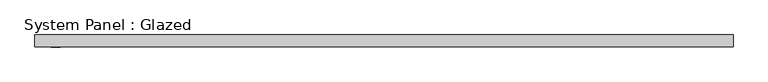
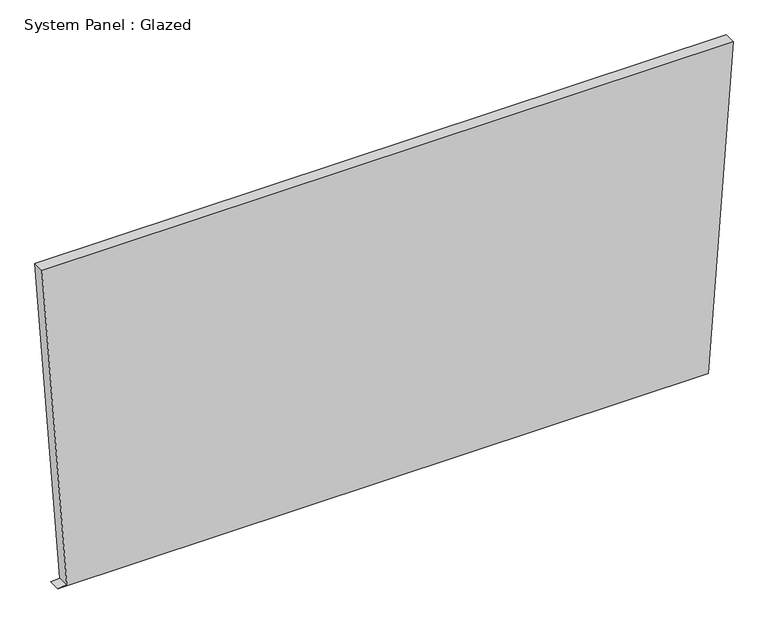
"""IFC4 building model written with IfcOpenShell, lengths in millimetres: plate geometry, System Panel : Glazed."""

import ifcopenshell
import ifcopenshell.guid

model = None  # the IFC model being written
_history = None  # IfcOwnerHistory: only IFC2X3 demands one
_inside = {}  # id of a spatial element -> (the spatial element, [elements in it])
_under = {}  # id of a project, library or spatial element -> (it, [spatial elements below it])
_declared = {}  # id of a project -> (the project, [libraries it declares])
_typed = {}  # id of a type object -> (the type object, [elements of that type])
_made_of = {}  # id of a material, layer set ... -> (it, [elements and type objects made of it])


def new_model(schema):
    """Start an empty IFC model of exactly this schema.

    Asked for "IFC4X3", IfcOpenShell would pick the latest addendum, in which some entities
    have other attributes; the version numbers below select the first issue.
    IFC2X3 requires an IfcOwnerHistory on every rooted entity: one is made here for all.
    """
    global model, _history
    if schema == "IFC4X3":
        model = ifcopenshell.file(schema_version=(4, 3, 0, 0))
    else:
        model = ifcopenshell.file(schema=schema)
    _inside.clear()
    _under.clear()
    _declared.clear()
    _typed.clear()
    _made_of.clear()
    _history = None
    if model.schema == "IFC2X3":
        org = make("IfcOrganization", Name="unknown")
        user = make(
            "IfcPersonAndOrganization",
            ThePerson=make("IfcPerson", FamilyName="unknown"),
            TheOrganization=org,
        )
        app = make(
            "IfcApplication",
            ApplicationDeveloper=org,
            Version="unknown",
            ApplicationFullName="unknown",
            ApplicationIdentifier="unknown",
        )
        _history = make(
            "IfcOwnerHistory",
            OwningUser=user,
            OwningApplication=app,
            ChangeAction="ADDED",
            CreationDate=0,
        )
    return model


def make(cls, **values):
    """One entity of the class cls with the attributes given. An attribute that is None is left unset."""
    return model.create_entity(
        cls, **{name: value for name, value in values.items() if value is not None}
    )


def rooted(cls, **values):
    """An entity with a GlobalId (a new one), such as an element, a storey or a relation."""
    return make(cls, GlobalId=ifcopenshell.guid.new(), OwnerHistory=_history, **values)


def si_unit(unit_type, name, prefix=None):
    """IfcSIUnit, for example si_unit("LENGTHUNIT", "METRE", prefix="MILLI")."""
    return make("IfcSIUnit", UnitType=unit_type, Prefix=prefix, Name=name)


def assignment(units):
    """IfcUnitAssignment: the units of a project."""
    return None if units is None else make("IfcUnitAssignment", Units=units)


def point(xyz):
    """IfcCartesianPoint."""
    return None if xyz is None else make("IfcCartesianPoint", Coordinates=xyz)


def direction(xyz):
    """IfcDirection."""
    return None if xyz is None else make("IfcDirection", DirectionRatios=xyz)


def frame(location, z_axis=None, x_axis=None):
    """IfcAxis2Placement3D, a coordinate frame: its origin and axes. An axis left out is left unset."""
    return make(
        "IfcAxis2Placement3D",
        Location=point(location),
        Axis=direction(z_axis),
        RefDirection=direction(x_axis),
    )


def origin():
    """The frame at (0, 0, 0) with its axes left unset."""
    return frame((0.0, 0.0, 0.0))


def place(relative_to, where):
    """IfcLocalPlacement: puts the frame where relative to a parent placement (None: the world)."""
    return make(
        "IfcLocalPlacement", PlacementRelTo=relative_to, RelativePlacement=where
    )


def context(
    kind, dimensions, precision=None, world=None, true_north=None, identifier=None
):
    """IfcGeometricRepresentationContext, for example the 3D "Model" context."""
    return make(
        "IfcGeometricRepresentationContext",
        ContextIdentifier=identifier,
        ContextType=kind,
        CoordinateSpaceDimension=dimensions,
        Precision=precision,
        WorldCoordinateSystem=world,
        TrueNorth=true_north,
    )


def project(units=None, contexts=None):
    """IfcProject with its units and contexts."""
    return rooted(
        "IfcProject",
        Name="project",
        RepresentationContexts=contexts,
        UnitsInContext=assignment(units),
    )


def spatial(cls, under=None, at=None, **own):
    """A site, building, storey or space (cls), placed at a placement, below another one or the project."""
    s = rooted(cls, ObjectPlacement=at, **own)
    if under is not None:
        _under.setdefault(under.id(), (under, []))[1].append(s)
    return s


def polyline(points):
    """IfcPolyline through the points."""
    return make("IfcPolyline", Points=[point(p) for p in points])


def outline(outer, holes=None, kind="AREA"):
    """IfcArbitraryClosedProfileDef: a profile drawn as a closed curve; with holes, ...WithVoids."""
    if holes is None:
        return make("IfcArbitraryClosedProfileDef", ProfileType=kind, OuterCurve=outer)
    return make(
        "IfcArbitraryProfileDefWithVoids",
        ProfileType=kind,
        OuterCurve=outer,
        InnerCurves=holes,
    )


def extrude(swept, where, along, depth):
    """IfcExtrudedAreaSolid: the profile swept, set in the frame where, extruded along a direction by depth."""
    return make(
        "IfcExtrudedAreaSolid",
        SweptArea=swept,
        Position=where,
        ExtrudedDirection=direction(along),
        Depth=depth,
    )


def shape(context_of_items, identifier, shape_type, items):
    """IfcShapeRepresentation: the items that make up one representation, for example the "Body"."""
    return make(
        "IfcShapeRepresentation",
        ContextOfItems=context_of_items,
        RepresentationIdentifier=identifier,
        RepresentationType=shape_type,
        Items=items,
    )


def source(mapping_origin, context_of_items, identifier, shape_type, items):
    """IfcRepresentationMap: a shape defined once, which mapped items show again and again."""
    return make(
        "IfcRepresentationMap",
        MappingOrigin=mapping_origin,
        MappedRepresentation=shape(context_of_items, identifier, shape_type, items),
    )


def transform(
    local_origin,
    x_axis=None,
    y_axis=None,
    z_axis=None,
    scale=None,
    scale2=None,
    scale3=None,
    uniform=True,
):
    """IfcCartesianTransformationOperator3D, or its non-uniform kind. x_axis, y_axis, z_axis: its Axis1, 2, 3."""
    if uniform:
        return make(
            "IfcCartesianTransformationOperator3D",
            Axis1=direction(x_axis),
            Axis2=direction(y_axis),
            LocalOrigin=point(local_origin),
            Scale=scale,
            Axis3=direction(z_axis),
        )
    return make(
        "IfcCartesianTransformationOperator3DnonUniform",
        Axis1=direction(x_axis),
        Axis2=direction(y_axis),
        LocalOrigin=point(local_origin),
        Scale=scale,
        Axis3=direction(z_axis),
        Scale2=scale2,
        Scale3=scale3,
    )


def mapped(mapping_source, mapping_target):
    """IfcMappedItem: shows the shape of a source again, moved by a transform."""
    return make(
        "IfcMappedItem", MappingSource=mapping_source, MappingTarget=mapping_target
    )


def made_of(thing, what):
    """Note that an element or type object is made of a material, layer set ...; save() writes the relation."""
    if what is not None:
        _made_of.setdefault(what.id(), (what, []))[1].append(thing)
    return thing


def element(
    cls,
    number,
    at=None,
    inside=None,
    cuts=None,
    type_object=None,
    material=None,
    context=None,
    identifier="Body",
    shape_type=None,
    held_by="IfcProductDefinitionShape",
    body=None,
    shapes=None,
    **own,
):
    """One element of the class cls, such as IfcWall. Its Tag is "e" and its number.

    at: its placement. inside: the storey or other place that contains it. cuts: it is an
    opening in that element (IfcRelVoidsElement). A single representation is given by context,
    identifier, shape_type and body (its items); several are given by shapes. held_by: the class
    of the entity that holds the representations. save() writes the other relations.
    """
    e = rooted(cls, Tag="e%d" % number, ObjectPlacement=at, **own)
    if body is not None:
        shapes = [shape(context, identifier, shape_type, body)]
    if shapes is not None:
        e.Representation = make(held_by, Representations=shapes)
    if inside is not None:
        _inside.setdefault(inside.id(), (inside, []))[1].append(e)
    if cuts is not None:
        rooted(
            "IfcRelVoidsElement", RelatingBuildingElement=cuts, RelatedOpeningElement=e
        )
    if type_object is not None:
        _typed.setdefault(type_object.id(), (type_object, []))[1].append(e)
    return made_of(e, material)


def aggregate(whole, parts):
    """IfcRelAggregates: a whole, such as a stair, and the parts it consists of."""
    return rooted("IfcRelAggregates", RelatingObject=whole, RelatedObjects=parts)


def save(model, path):
    """Write the relations noted so far, then the file.

    IfcRelAggregates (storeys below a building ...), IfcRelContainedInSpatialStructure (elements
    in a storey), IfcRelDefinesByType, IfcRelAssociatesMaterial and IfcRelDeclares: one each for
    every whole, place, type object, material and project.
    """
    for whole, parts in _under.values():
        aggregate(whole, parts)
    for where, things in _inside.values():
        rooted(
            "IfcRelContainedInSpatialStructure",
            RelatedElements=things,
            RelatingStructure=where,
        )
    for kind, things in _typed.values():
        rooted("IfcRelDefinesByType", RelatedObjects=things, RelatingType=kind)
    for what, things in _made_of.values():
        rooted("IfcRelAssociatesMaterial", RelatedObjects=things, RelatingMaterial=what)
    for by, libraries in _declared.values():
        rooted("IfcRelDeclares", RelatingContext=by, RelatedDefinitions=libraries)
    model.write(path)


def system_panel_glazed_ad4a3e8e(model_context):
    return source(origin(), model_context, "Body", "SweptSolid", [
        extrude(outline(polyline([(0.0005851, -700.1401839), (0.0, 681.0396794), (726.5244245, 733.9789335), (726.5250328, -733.9789335), (1.3850205, -681.1405566), (0.0005851, -700.1401839)])), frame((0.0, 19.05, 0.0), z_axis=(0.0, 1.0, 0.0), x_axis=(0.0, 0.0, 1.0)), (0.0, 0.0, 1.0), 25.4),
    ])


if __name__ == "__main__":
    model = new_model("IFC4")
    model_context = context("Model", 3, world=origin())
    ifc_project = project(units=[si_unit("LENGTHUNIT", "METRE", prefix="MILLI")], contexts=[model_context])
    site = spatial("IfcSite", under=ifc_project)
    building = spatial("IfcBuilding", under=site)
    placement = place(None, origin())
    system_panel_glazed_shape = system_panel_glazed_ad4a3e8e(model_context)
    element("IfcPlate", 1, ObjectType="System Panel : Glazed", at=placement, inside=building, context=model_context, shape_type="MappedRepresentation", body=[
        mapped(system_panel_glazed_shape, transform((0.0, 0.0, 0.0), x_axis=(1.0, 0.0, 0.0), y_axis=(0.0, 1.0, 0.0), z_axis=(0.0, 0.0, 1.0))),
    ])
    save(model, "model.ifc")
